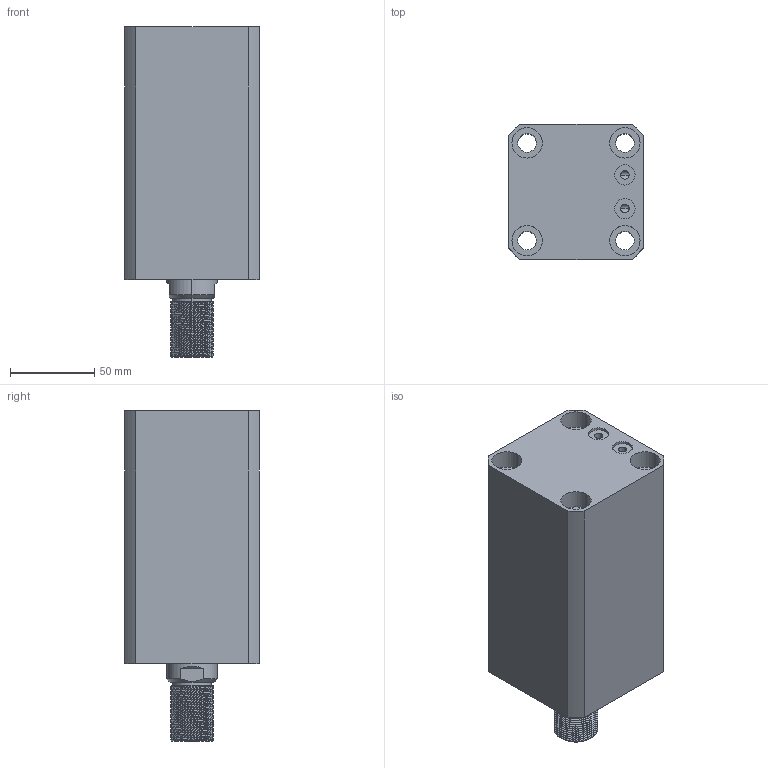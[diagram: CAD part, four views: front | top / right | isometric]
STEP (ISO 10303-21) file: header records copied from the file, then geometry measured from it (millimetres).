
FILE_DESCRIPTION (( 'STEP AP203' ), '1' );
FILE_NAME ('CHTB-SDMB50-90W.STEP', '2018-05-19T07:54:59', ( '' ), ( '' ), 'SwSTEP 2.0', 'SolidWorks 2015', '' );
FILE_SCHEMA (( 'CONFIG_CONTROL_DESIGN' ));
Length unit declared in the file: millimetre
Products named in the file (5): 活塞杆SDMB50-90W; 掛极SDMB50-90W; CHTM-SDMA50QG; M6; CHTB-SDMB50-90W
Assembly tree (5 placements, depth 2):
  CHTB-SDMB50-90W
    掛极SDMB50-90W
    活塞杆SDMB50-90W
    CHTM-SDMA50QG
    M6  x2
Bounding box: 80 x 80 x 196 mm (x, y, z)
Volume: 792634.8 mm3; surface area: 144003.7 mm2
Topology: 5 solids, 5 shells, 305 faces, 821 edges, 547 vertices
Faces by surface type: cylinder 175, plane 57, cone 29, bspline 28, torus 16
Entity records: 17763 total; most frequent: CARTESIAN_POINT 11022, ORIENTED_EDGE 1448, DIRECTION 1131, EDGE_CURVE 724, VERTEX_POINT 486, AXIS2_PLACEMENT_3D 455, EDGE_LOOP 312, FACE_OUTER_BOUND 270
